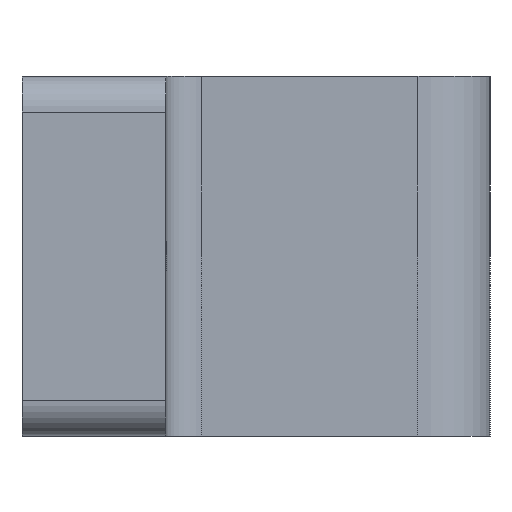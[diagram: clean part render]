
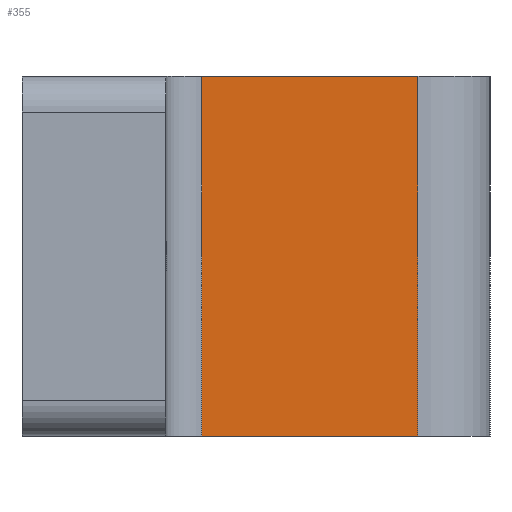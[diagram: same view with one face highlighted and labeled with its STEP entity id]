
A CAD part, left-side view. The second image highlights one B-rep face of the part: STEP entity #355.
In plain terms, the highlighted planar face has unit normal (-1, 0, 0).
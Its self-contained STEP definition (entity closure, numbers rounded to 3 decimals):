
#287 = VERTEX_POINT( '', #655 );
#297 = VERTEX_POINT( '', #666 );
#299 = EDGE_CURVE( '', #365, #287, #668, .T. );
#341 = EDGE_CURVE( '', #445, #297, #713, .T. );
#355 = ADVANCED_FACE( '', ( #728 ), #729, .T. );
#365 = VERTEX_POINT( '', #742 );
#445 = VERTEX_POINT( '', #827 );
#491 = EDGE_CURVE( '', #297, #287, #879, .T. );
#535 = EDGE_CURVE( '', #445, #365, #927, .T. );
#655 = CARTESIAN_POINT( '', ( 8., -22., -10. ) );
#666 = CARTESIAN_POINT( '', ( 8., -10., -10. ) );
#668 = LINE( '', #1093, #1094 );
#713 = LINE( '', #1155, #1156 );
#728 = FACE_OUTER_BOUND( '', #1173, .T. );
#729 = PLANE( '', #1174 );
#742 = CARTESIAN_POINT( '', ( 8., -22., 10. ) );
#827 = CARTESIAN_POINT( '', ( 8., -10., 10. ) );
#879 = LINE( '', #1378, #1379 );
#927 = LINE( '', #1443, #1444 );
#1093 = CARTESIAN_POINT( '', ( 8., -22., 10. ) );
#1094 = VECTOR( '', #1571, 1. );
#1155 = CARTESIAN_POINT( '', ( 8., -10., 10. ) );
#1156 = VECTOR( '', #1612, 1. );
#1173 = EDGE_LOOP( '', ( #1628, #1629, #1630, #1631 ) );
#1174 = AXIS2_PLACEMENT_3D( '', #1632, #1633, #1634 );
#1378 = CARTESIAN_POINT( '', ( 8., -10., -10. ) );
#1379 = VECTOR( '', #1813, 1. );
#1443 = CARTESIAN_POINT( '', ( 8., -10., 10. ) );
#1444 = VECTOR( '', #1882, 1. );
#1571 = DIRECTION( '', ( 0., 0., -1. ) );
#1612 = DIRECTION( '', ( 0., 0., -1. ) );
#1628 = ORIENTED_EDGE( '', *, *, #491, .T. );
#1629 = ORIENTED_EDGE( '', *, *, #299, .F. );
#1630 = ORIENTED_EDGE( '', *, *, #535, .F. );
#1631 = ORIENTED_EDGE( '', *, *, #341, .T. );
#1632 = CARTESIAN_POINT( '', ( 8., -10., 10. ) );
#1633 = DIRECTION( '', ( -1., 0., 0. ) );
#1634 = DIRECTION( '', ( 0., 1., 0. ) );
#1813 = DIRECTION( '', ( 0., -1., 0. ) );
#1882 = DIRECTION( '', ( 0., -1., 0. ) );
